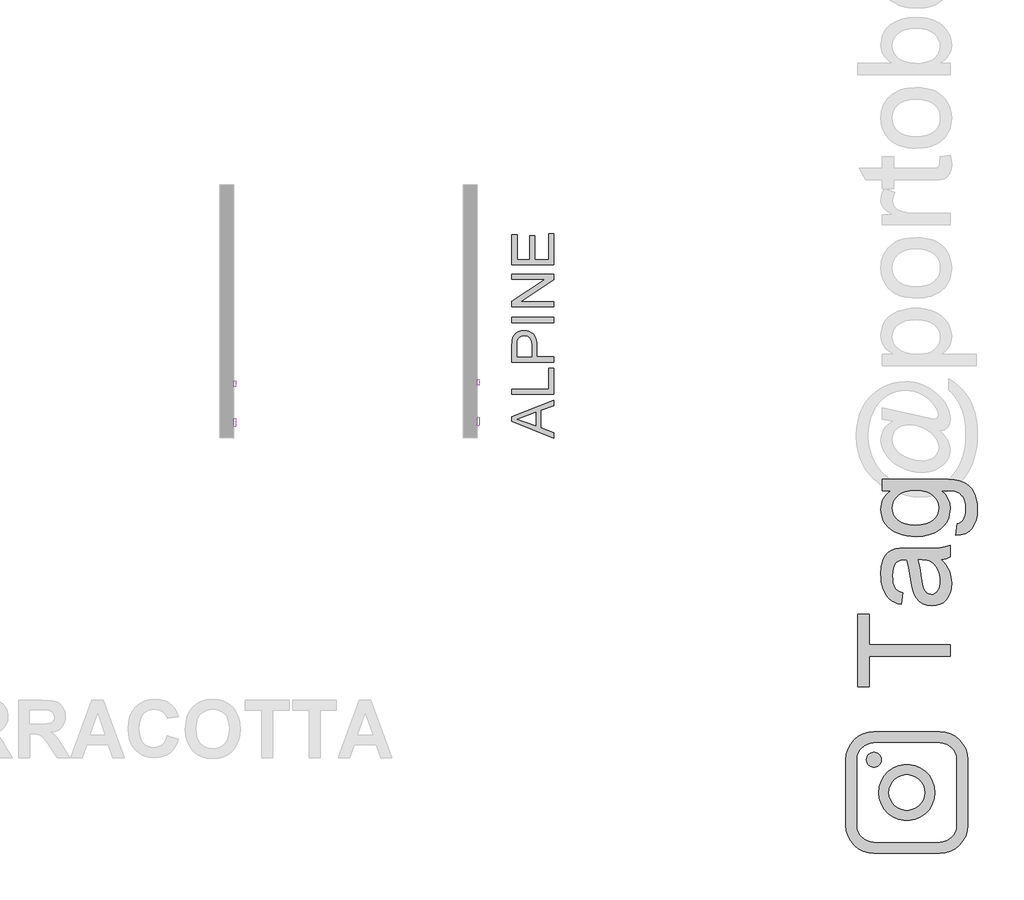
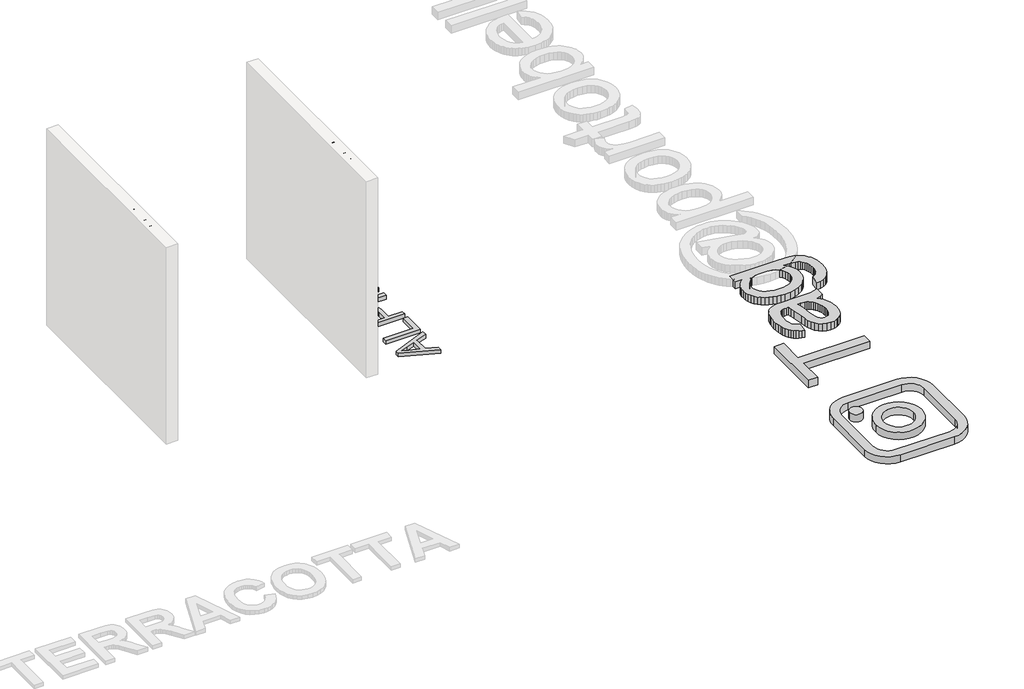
# One storey, part 4 of 11: 7 proxies.
"""IFC4 building model written with IfcOpenShell, lengths in millimetres."""

from ifc_helpers import new_model, si_unit, frame, origin, origin_with_axes, place, context, project, spatial, polyline, outline, extrude, transform, mapped, element, save
from components import generic_models_d67f6705

model = new_model("IFC4")

# Units and contexts
model_context = context("Model", 3, world=origin())
ifc_project = project(units=[si_unit("LENGTHUNIT", "METRE", prefix="MILLI")], contexts=[model_context])

# Site, building, storey
site = spatial("IfcSite", under=ifc_project)
building = spatial("IfcBuilding", under=site)
storey = spatial("IfcBuildingStorey", under=building, Name="PORTOBELLO - SHOWROOM", Elevation=0.0)

# Proxies
placement = place(None, origin())
generic_models_shape = generic_models_d67f6705(model_context)
element("IfcBuildingElementProxy", 1, Name="Blks_Instagram1 : Único 2", ObjectType="Blks_Instagram1 : Único 2", at=placement, inside=storey, context=model_context, shape_type="MappedRepresentation", body=[
    mapped(generic_models_shape, transform((-18873.9530157, -13261.2406298, 0.0), x_axis=(-1.0, 0.0, 0.0), y_axis=(0.0, -1.0, 0.0), z_axis=(0.0, 0.0, 1.0))),
])
element("IfcBuildingElementProxy", 2, Name="10mm Arial", ObjectType="10mm Arial", at=placement, inside=storey, context=model_context, shape_type="SweptSolid", body=[
    extrude(outline(polyline([(-9344.0198236, 2556.0678976), (-9303.9206861, 2656.5242077), (-9293.2275828, 2656.5242077), (-9253.1284453, 2556.0678976), (-9266.3967226, 2556.0678976), (-9277.8991663, 2587.4604945), (-9319.273628, 2587.4604945), (-9330.7515463, 2556.0678976), (-9344.0198236, 2556.0678976)]), holes=[polyline([(-9314.6628404, 2600.0175332), (-9282.4854285, 2600.0175332), (-9291.5353256, 2624.7146779), (-9298.5741345, 2643.9671689), (-9304.8281284, 2626.8729189), (-9314.6628404, 2600.0175332)])]), frame((-23458.2301018, 0.0, 0.0), z_axis=(1.0, 0.0, 0.0), x_axis=(0.0, 1.0, 0.0)), (0.0, 0.0, 1.0), 20.0),
    extrude(outline(polyline([(-23438.2301018, -9228.7256063), (-23438.2301018, -9241.2826451), (-23458.2301018, -9241.2826451), (-23458.2301018, -9228.7256063), (-23438.2301018, -9228.7256063)])), frame((0.0, 0.0, 2556.0678976), z_axis=(0.0, 0.0, 1.0), x_axis=(1.0, 0.0, 0.0)), (0.0, 0.0, 1.0), 100.4563101),
    extrude(outline(polyline([(-9209.8900481, 2527.8145603), (-9209.8900481, 2629.8405003), (-9197.3330094, 2629.8405003), (-9197.3330094, 2617.5287162), (-9188.6509943, 2627.9397767), (-9176.9278214, 2631.4101302), (-9161.0107937, 2626.5540878), (-9150.611996, 2612.8688776), (-9147.1048543, 2593.5182847), (-9151.0657171, 2573.1744103), (-9162.5681608, 2559.3175218), (-9178.4484003, 2554.4982677), (-9189.3744956, 2557.7233665), (-9197.3330094, 2565.8780841), (-9197.3330094, 2527.8145603), (-9209.8900481, 2527.8145603)]), holes=[polyline([(-9197.3330094, 2592.3655877), (-9195.9749117, 2581.1083987), (-9191.9006186, 2573.235724), (-9185.8888136, 2568.6004109), (-9178.7181804, 2567.0553065), (-9171.4310512, 2568.6555932), (-9165.2659621, 2573.4564532), (-9161.0629103, 2581.6173021), (-9159.6618931, 2593.2975555), (-9161.0291878, 2604.4934309), (-9165.1310721, 2612.4764702), (-9171.13368, 2617.2589361), (-9178.2031456, 2618.8530914), (-9185.3002025, 2617.1577685), (-9191.5327366, 2612.0718), (-9195.8829412, 2603.7546012), (-9197.3330094, 2592.3655877)])]), frame((-23458.2301018, 0.0, 0.0), z_axis=(1.0, 0.0, 0.0), x_axis=(0.0, 1.0, 0.0)), (0.0, 0.0, 1.0), 20.0),
    extrude(outline(polyline([(-23438.2301018, -9120.4211469), (-23438.2301018, -9132.9781857), (-23458.2301018, -9132.9781857), (-23458.2301018, -9120.4211469), (-23438.2301018, -9120.4211469)])), frame((0.0, 0.0, 2643.9671689), z_axis=(0.0, 0.0, 1.0), x_axis=(1.0, 0.0, 0.0)), (0.0, 0.0, 1.0), 12.5570388),
    extrude(outline(polyline([(-23438.2301018, -9120.4211469), (-23438.2301018, -9132.9781857), (-23458.2301018, -9132.9781857), (-23458.2301018, -9120.4211469), (-23438.2301018, -9120.4211469)])), frame((0.0, 0.0, 2556.0678976), z_axis=(0.0, 0.0, 1.0), x_axis=(1.0, 0.0, 0.0)), (0.0, 0.0, 1.0), 73.7726028),
    extrude(outline(polyline([(-9101.5855888, 2556.0678976), (-9101.5855888, 2629.8405003), (-9089.02855, 2629.8405003), (-9089.02855, 2619.5398045), (-9079.4268299, 2628.4425487), (-9066.3179682, 2631.4101302), (-9054.4599052, 2629.0188972), (-9046.3665013, 2622.7403778), (-9042.6018422, 2613.5065397), (-9041.9396546, 2601.3664339), (-9041.9396546, 2556.0678976), (-9054.4966934, 2556.0678976), (-9054.4966934, 2599.6741767), (-9055.9436959, 2610.784213), (-9061.0572556, 2616.6580622), (-9069.6779571, 2618.8530914), (-9083.3018536, 2613.9234727), (-9087.5968759, 2606.7804306), (-9089.02855, 2595.2105418), (-9089.02855, 2556.0678976), (-9101.5855888, 2556.0678976)])), frame((-23458.2301018, 0.0, 0.0), z_axis=(1.0, 0.0, 0.0), x_axis=(0.0, 1.0, 0.0)), (0.0, 0.0, 1.0), 20.0),
    extrude(outline(polyline([(-8973.0230942, 2578.0427154), (-8960.7113101, 2576.4730856), (-8965.1473538, 2567.1963279), (-8972.2260165, 2560.2617523), (-8981.7878827, 2555.9391389), (-8993.6735369, 2554.4982677), (-9008.4072108, 2556.9845369), (-9019.7441076, 2564.4433443), (-9026.9729888, 2576.3903121), (-9029.3826158, 2592.3410623), (-9026.9484633, 2608.828307), (-9019.6460057, 2621.1584852), (-9008.4623931, 2628.8472189), (-8994.3847754, 2631.4101302), (-8980.7455504, 2628.8533503), (-8969.8470463, 2621.1830107), (-8962.7009385, 2608.877358), (-8960.3189026, 2592.4146387), (-8960.392479, 2589.0301243), (-9016.8255771, 2589.0301243), (-9014.6520076, 2579.6307393), (-9009.6028272, 2572.7206892), (-9002.3156981, 2568.4716522), (-8993.4282822, 2567.0553065), (-8981.1164981, 2569.6795314), (-8973.0230942, 2578.0427154)]), holes=[polyline([(-9016.8255771, 2601.5871631), (-8972.8759414, 2601.5871631), (-8977.903662, 2612.9669795), (-8985.2245137, 2617.3815634), (-8994.4338263, 2618.8530914), (-9009.8971328, 2614.1564646), (-9014.7623722, 2608.6658258), (-9016.8255771, 2601.5871631)])]), frame((-23458.2301018, 0.0, 0.0), z_axis=(1.0, 0.0, 0.0), x_axis=(0.0, 1.0, 0.0)), (0.0, 0.0, 1.0), 20.0),
])
element("IfcBuildingElementProxy", 3, Name="10mm Arial", ObjectType="10mm Arial", at=placement, inside=storey, context=model_context, shape_type="SweptSolid", body=[
    extrude(outline(polyline([(-9356.1117613, 2554.1816581), (-9316.0126238, 2654.6379682), (-9305.3195205, 2654.6379682), (-9265.220383, 2554.1816581), (-9278.4886603, 2554.1816581), (-9289.991104, 2585.574255), (-9331.3655657, 2585.574255), (-9342.843484, 2554.1816581), (-9356.1117613, 2554.1816581)]), holes=[polyline([(-9326.7547781, 2598.1312938), (-9294.5773662, 2598.1312938), (-9303.6272633, 2622.8284384), (-9310.6660721, 2642.0809294), (-9316.9200661, 2624.9866794), (-9326.7547781, 2598.1312938)])]), frame((-26058.2301018, 0.0, 0.0), z_axis=(1.0, 0.0, 0.0), x_axis=(0.0, 1.0, 0.0)), (0.0, 0.0, 1.0), 20.0),
    extrude(outline(polyline([(-26038.2301018, -9240.817544), (-26038.2301018, -9253.3745828), (-26058.2301018, -9253.3745828), (-26058.2301018, -9240.817544), (-26038.2301018, -9240.817544)])), frame((0.0, 0.0, 2554.1816581), z_axis=(0.0, 0.0, 1.0), x_axis=(1.0, 0.0, 0.0)), (0.0, 0.0, 1.0), 100.4563101),
    extrude(outline(polyline([(-9221.9819858, 2525.9283208), (-9221.9819858, 2627.9542608), (-9209.4249471, 2627.9542608), (-9209.4249471, 2615.6424767), (-9200.742932, 2626.0535372), (-9189.0197591, 2629.5238907), (-9173.1027314, 2624.6678483), (-9162.7039337, 2610.9826381), (-9159.196792, 2591.6320452), (-9163.1576548, 2571.2881708), (-9174.6600985, 2557.4312824), (-9190.540338, 2552.6120282), (-9201.4664332, 2555.837127), (-9209.4249471, 2563.9918446), (-9209.4249471, 2525.9283208), (-9221.9819858, 2525.9283208)]), holes=[polyline([(-9209.4249471, 2590.4793483), (-9208.0668494, 2579.2221592), (-9203.9925563, 2571.3494845), (-9197.9807513, 2566.7141714), (-9190.8101181, 2565.169067), (-9183.5229889, 2566.7693537), (-9177.3578998, 2571.5702137), (-9173.154848, 2579.7310626), (-9171.7538308, 2591.411316), (-9173.1211255, 2602.6071914), (-9177.2230098, 2610.5902307), (-9183.2256176, 2615.3726966), (-9190.2950833, 2616.9668519), (-9197.3921401, 2615.2715291), (-9203.6246743, 2610.1855605), (-9207.9748789, 2601.8683617), (-9209.4249471, 2590.4793483)])]), frame((-26058.2301018, 0.0, 0.0), z_axis=(1.0, 0.0, 0.0), x_axis=(0.0, 1.0, 0.0)), (0.0, 0.0, 1.0), 20.0),
    extrude(outline(polyline([(-26038.2301018, -9132.5130846), (-26038.2301018, -9145.0701234), (-26058.2301018, -9145.0701234), (-26058.2301018, -9132.5130846), (-26038.2301018, -9132.5130846)])), frame((0.0, 0.0, 2642.0809294), z_axis=(0.0, 0.0, 1.0), x_axis=(1.0, 0.0, 0.0)), (0.0, 0.0, 1.0), 12.5570388),
    extrude(outline(polyline([(-26038.2301018, -9132.5130846), (-26038.2301018, -9145.0701234), (-26058.2301018, -9145.0701234), (-26058.2301018, -9132.5130846), (-26038.2301018, -9132.5130846)])), frame((0.0, 0.0, 2554.1816581), z_axis=(0.0, 0.0, 1.0), x_axis=(1.0, 0.0, 0.0)), (0.0, 0.0, 1.0), 73.7726028),
    extrude(outline(polyline([(-9113.6775265, 2554.1816581), (-9113.6775265, 2627.9542608), (-9101.1204877, 2627.9542608), (-9101.1204877, 2617.653565), (-9091.5187676, 2626.5563093), (-9078.4099059, 2629.5238907), (-9066.5518429, 2627.1326577), (-9058.458439, 2620.8541383), (-9054.6937799, 2611.6203002), (-9054.0315923, 2599.4801944), (-9054.0315923, 2554.1816581), (-9066.5886311, 2554.1816581), (-9066.5886311, 2597.7879372), (-9068.0356336, 2608.8979735), (-9073.1491933, 2614.7718227), (-9081.7698947, 2616.9668519), (-9095.3937913, 2612.0372332), (-9099.6888136, 2604.8941911), (-9101.1204877, 2593.3243024), (-9101.1204877, 2554.1816581), (-9113.6775265, 2554.1816581)])), frame((-26058.2301018, 0.0, 0.0), z_axis=(1.0, 0.0, 0.0), x_axis=(0.0, 1.0, 0.0)), (0.0, 0.0, 1.0), 20.0),
    extrude(outline(polyline([(-8985.1150319, 2576.1564759), (-8972.8032478, 2574.5868461), (-8977.2392915, 2565.3100884), (-8984.3179542, 2558.3755128), (-8993.8798204, 2554.0528994), (-9005.7654745, 2552.6120282), (-9020.4991484, 2555.0982974), (-9031.8360453, 2562.5571048), (-9039.0649265, 2574.5040726), (-9041.4745535, 2590.4548228), (-9039.040401, 2606.9420675), (-9031.7379434, 2619.2722457), (-9020.5543307, 2626.9609794), (-9006.4767131, 2629.5238907), (-8992.8374881, 2626.9671108), (-8981.938984, 2619.2967712), (-8974.7928762, 2606.9911185), (-8972.4108403, 2590.5283992), (-8972.4844167, 2587.1438848), (-9028.9175148, 2587.1438848), (-9026.7439453, 2577.7444999), (-9021.6947649, 2570.8344497), (-9014.4076357, 2566.5854127), (-9005.5202199, 2565.169067), (-8993.2084358, 2567.7932919), (-8985.1150319, 2576.1564759)]), holes=[polyline([(-9028.9175148, 2599.7009236), (-8984.9678791, 2599.7009236), (-8989.9955997, 2611.08074), (-8997.3164514, 2615.4953239), (-9006.525764, 2616.9668519), (-9021.9890705, 2612.2702251), (-9026.8543099, 2606.7795863), (-9028.9175148, 2599.7009236)])]), frame((-26058.2301018, 0.0, 0.0), z_axis=(1.0, 0.0, 0.0), x_axis=(0.0, 1.0, 0.0)), (0.0, 0.0, 1.0), 20.0),
])
element("IfcBuildingElementProxy", 4, Name="10mm Arial Narrow", ObjectType="10mm Arial Narrow", at=placement, inside=storey, context=model_context, shape_type="SweptSolid", body=[
    extrude(outline(polyline([(-8915.186117, 2556.0678976), (-8915.186117, 2656.7865013), (-8883.8892323, 2656.7865013), (-8867.5935308, 2654.9081806), (-8856.1205447, 2645.4277374), (-8851.8308663, 2628.4086286), (-8853.6171747, 2616.332803), (-8858.9760999, 2606.7064093), (-8868.7198887, 2600.4051509), (-8883.6607879, 2598.3047314), (-8905.4391554, 2598.3047314), (-8905.4391554, 2556.0678976), (-8915.186117, 2556.0678976)]), holes=[polyline([(-8905.4391554, 2609.6761867), (-8882.4678004, 2609.6761867), (-8866.603605, 2614.2070009), (-8861.5778279, 2627.8755916), (-8864.0526424, 2638.041368), (-8870.0302712, 2643.8413179), (-8882.6962448, 2645.415046), (-8905.4391554, 2645.415046), (-8905.4391554, 2609.6761867)])]), frame((-23458.2301018, 0.0, 0.0), z_axis=(1.0, 0.0, 0.0), x_axis=(0.0, 1.0, 0.0)), (0.0, 0.0, 1.0), 20.0),
    extrude(outline(polyline([(-8843.7083982, 2592.6190038), (-8841.7539294, 2609.2097793), (-8835.8905227, 2621.1618641), (-8827.031956, 2628.3864187), (-8816.0920069, 2630.7946036), (-8805.2789713, 2628.3864187), (-8796.3950219, 2621.1618641), (-8790.4554671, 2609.4001497), (-8788.4756155, 2593.3804851), (-8790.4205659, 2576.2185986), (-8796.255417, 2564.0761434), (-8805.1044651, 2556.8515888), (-8816.0920069, 2554.4434039), (-8826.952635, 2556.8579345), (-8835.827066, 2564.1015261), (-8841.7380652, 2576.0599566), (-8843.7083982, 2592.6190038)]), holes=[polyline([(-8833.9614366, 2592.6443865), (-8832.6573997, 2580.0926351), (-8828.7452891, 2571.221377), (-8822.9040924, 2565.9481185), (-8815.812797, 2564.1903656), (-8809.0927239, 2565.9639826), (-8803.4006506, 2571.2848338), (-8799.5170955, 2580.171956), (-8798.2225772, 2592.6443865), (-8799.526614, 2605.1580638), (-8803.4387246, 2614.0166305), (-8809.2799214, 2619.2898891), (-8816.3712167, 2621.0476419), (-8823.1388825, 2619.2803705), (-8828.8214373, 2613.9785564), (-8832.6764367, 2605.1104712), (-8833.9614366, 2592.6443865)])]), frame((-23458.2301018, 0.0, 0.0), z_axis=(1.0, 0.0, 0.0), x_axis=(0.0, 1.0, 0.0)), (0.0, 0.0, 1.0), 20.0),
    extrude(outline(polyline([(-8716.9978967, 2564.1903656), (-8715.3734031, 2554.4434039), (-8722.7343898, 2554.4434039), (-8731.0091541, 2556.5628605), (-8735.3242153, 2562.3628103), (-8736.49182, 2577.0086355), (-8736.49182, 2619.4231483), (-8744.6142881, 2619.4231483), (-8744.6142881, 2622.6721355), (-8746.2387817, 2617.7986547), (-8753.8028301, 2619.4231483), (-8759.8819897, 2617.1006301), (-8763.7528534, 2610.615347), (-8765.732705, 2595.2080404), (-8765.732705, 2556.0678976), (-8775.4796667, 2556.0678976), (-8775.4796667, 2629.17011), (-8765.732705, 2629.17011), (-8765.732705, 2619.4739137), (-8759.4885577, 2628.5609249), (-8753.0921141, 2630.7946036), (-8744.6142881, 2629.17011), (-8736.49182, 2629.17011), (-8736.49182, 2645.415046), (-8726.7448584, 2653.5375141), (-8726.7448584, 2629.17011), (-8716.9978967, 2629.17011), (-8716.9978967, 2619.4231483), (-8726.7448584, 2619.4231483), (-8726.7448584, 2574.7749568), (-8725.8818462, 2566.7794023), (-8721.2621925, 2564.1903656), (-8716.9978967, 2564.1903656)])), frame((-23458.2301018, 0.0, 0.0), z_axis=(1.0, 0.0, 0.0), x_axis=(0.0, 1.0, 0.0)), (0.0, 0.0, 1.0), 20.0),
    extrude(outline(polyline([(-8710.4999223, 2592.6190038), (-8708.5454534, 2609.2097793), (-8702.6820468, 2621.1618641), (-8693.8234801, 2628.3864187), (-8682.8835309, 2630.7946036), (-8672.0704954, 2628.3864187), (-8663.1865459, 2621.1618641), (-8657.2469912, 2609.4001497), (-8655.2671396, 2593.3804851), (-8657.21209, 2576.2185986), (-8663.046941, 2564.0761434), (-8671.8959892, 2556.8515888), (-8682.8835309, 2554.4434039), (-8693.7441591, 2556.8579345), (-8702.61859, 2564.1015261), (-8708.5295892, 2576.0599566), (-8710.4999223, 2592.6190038)]), holes=[polyline([(-8700.7529606, 2592.6443865), (-8699.4489238, 2580.0926351), (-8695.5368132, 2571.221377), (-8689.6956165, 2565.9481185), (-8682.6043211, 2564.1903656), (-8675.8842479, 2565.9639826), (-8670.1921746, 2571.2848338), (-8666.3086196, 2580.171956), (-8665.0141012, 2592.6443865), (-8666.3181381, 2605.1580638), (-8670.2302487, 2614.0166305), (-8676.0714454, 2619.2898891), (-8683.1627408, 2621.0476419), (-8689.9304065, 2619.2803705), (-8695.6129613, 2613.9785564), (-8699.4679608, 2605.1104712), (-8700.7529606, 2592.6443865)])]), frame((-23458.2301018, 0.0, 0.0), z_axis=(1.0, 0.0, 0.0), x_axis=(0.0, 1.0, 0.0)), (0.0, 0.0, 1.0), 20.0),
    extrude(outline(polyline([(-8632.5242291, 2556.0678976), (-8642.2711907, 2556.0678976), (-8642.2711907, 2656.7865013), (-8632.5242291, 2656.7865013), (-8632.5242291, 2621.3776172), (-8625.1251683, 2628.459394), (-8615.923935, 2630.7946036), (-8603.0422083, 2626.5937646), (-8593.7648269, 2613.8643342), (-8590.2873952, 2593.1774234), (-8592.2196542, 2576.72308), (-8598.0164312, 2564.5203409), (-8606.3895536, 2556.9626382), (-8616.0508486, 2554.4434039), (-8625.3916868, 2557.0578234), (-8632.5242291, 2564.8249334), (-8632.5242291, 2556.0678976)]), holes=[polyline([(-8632.5242291, 2593.1774234), (-8630.4428466, 2575.9298702), (-8624.5540573, 2567.1982171), (-8616.101614, 2564.1903656), (-8610.1588864, 2565.9798468), (-8604.9205291, 2571.3482906), (-8600.0343569, 2592.7713), (-8604.7428501, 2614.2070009), (-8609.9875531, 2619.3374817), (-8616.3046757, 2621.0476419), (-8622.2823045, 2619.2581607), (-8627.5746001, 2613.889717), (-8632.5242291, 2593.1774234)])]), frame((-23458.2301018, 0.0, 0.0), z_axis=(1.0, 0.0, 0.0), x_axis=(0.0, 1.0, 0.0)), (0.0, 0.0, 1.0), 20.0),
    extrude(outline(polyline([(-8538.3035998, 2578.8108081), (-8528.5566381, 2577.1863145), (-8532.2561685, 2567.2997479), (-8538.0751553, 2560.179897), (-8545.7788086, 2555.8775272), (-8555.1323382, 2554.4434039), (-8566.7258922, 2556.8579345), (-8575.8700145, 2564.1015261), (-8581.8095692, 2575.9076603), (-8583.7894208, 2592.0098187), (-8581.8000507, 2608.6767423), (-8575.8319404, 2620.8572716), (-8566.8179046, 2628.3102706), (-8555.6907579, 2630.7946036), (-8545.0078087, 2628.3959372), (-8536.2602914, 2621.1999382), (-8530.4254403, 2609.4604336), (-8528.48049, 2593.4312506), (-8528.5566381, 2590.1822633), (-8574.0424591, 2590.1822633), (-8568.0394476, 2570.7391055), (-8562.1094114, 2565.8275506), (-8555.0054247, 2564.1903656), (-8544.8269569, 2567.8454762), (-8538.3035998, 2578.8108081)]), holes=[polyline([(-8573.3825086, 2599.929225), (-8538.3035998, 2599.929225), (-8542.5678955, 2614.1943095), (-8548.393228, 2619.3343088), (-8555.6146098, 2621.0476419), (-8567.8236946, 2615.3365316), (-8573.3825086, 2599.929225)])]), frame((-23458.2301018, 0.0, 0.0), z_axis=(1.0, 0.0, 0.0), x_axis=(0.0, 1.0, 0.0)), (0.0, 0.0, 1.0), 20.0),
    extrude(outline(polyline([(-23438.2301018, -8505.8137276), (-23438.2301018, -8515.5606892), (-23458.2301018, -8515.5606892), (-23458.2301018, -8505.8137276), (-23438.2301018, -8505.8137276)])), frame((0.0, 0.0, 2556.0678976), z_axis=(0.0, 0.0, 1.0), x_axis=(1.0, 0.0, 0.0)), (0.0, 0.0, 1.0), 100.7186038),
    extrude(outline(polyline([(-23438.2301018, -8479.8218298), (-23438.2301018, -8489.5687915), (-23458.2301018, -8489.5687915), (-23458.2301018, -8479.8218298), (-23438.2301018, -8479.8218298)])), frame((0.0, 0.0, 2556.0678976), z_axis=(0.0, 0.0, 1.0), x_axis=(1.0, 0.0, 0.0)), (0.0, 0.0, 1.0), 100.7186038),
    extrude(outline(polyline([(-8468.4503746, 2592.6190038), (-8466.4959057, 2609.2097793), (-8460.6324991, 2621.1618641), (-8451.7739324, 2628.3864187), (-8440.8339832, 2630.7946036), (-8430.0209476, 2628.3864187), (-8421.1369982, 2621.1618641), (-8415.1974435, 2609.4001497), (-8413.2175919, 2593.3804851), (-8415.1625422, 2576.2185986), (-8420.9973933, 2564.0761434), (-8429.8464415, 2556.8515888), (-8440.8339832, 2554.4434039), (-8451.6946114, 2556.8579345), (-8460.5690423, 2564.1015261), (-8466.4800415, 2576.0599566), (-8468.4503746, 2592.6190038)]), holes=[polyline([(-8458.7034129, 2592.6443865), (-8457.3993761, 2580.0926351), (-8453.4872655, 2571.221377), (-8447.6460687, 2565.9481185), (-8440.5547734, 2564.1903656), (-8433.8347002, 2565.9639826), (-8428.1426269, 2571.2848338), (-8424.2590719, 2580.171956), (-8422.9645535, 2592.6443865), (-8424.2685904, 2605.1580638), (-8428.180701, 2614.0166305), (-8434.0218977, 2619.2898891), (-8441.1131931, 2621.0476419), (-8447.8808588, 2619.2803705), (-8453.5634136, 2613.9785564), (-8457.4184131, 2605.1104712), (-8458.7034129, 2592.6443865)])]), frame((-23458.2301018, 0.0, 0.0), z_axis=(1.0, 0.0, 0.0), x_axis=(0.0, 1.0, 0.0)), (0.0, 0.0, 1.0), 20.0),
])
element("IfcBuildingElementProxy", 5, Name="10mm Arial Narrow", ObjectType="10mm Arial Narrow", at=placement, inside=storey, context=model_context, shape_type="SweptSolid", body=[
    extrude(outline(polyline([(-8927.2780547, 2554.1816581), (-8927.2780547, 2654.9002618), (-8895.98117, 2654.9002618), (-8879.6854685, 2653.0219411), (-8868.2124824, 2643.5414979), (-8863.922804, 2626.5223891), (-8865.7091124, 2614.4465636), (-8871.0680376, 2604.8201698), (-8880.8118264, 2598.5189114), (-8895.7527256, 2596.4184919), (-8917.5310931, 2596.4184919), (-8917.5310931, 2554.1816581), (-8927.2780547, 2554.1816581)]), holes=[polyline([(-8917.5310931, 2607.7899472), (-8894.5597381, 2607.7899472), (-8878.6955427, 2612.3207614), (-8873.6697656, 2625.9893521), (-8876.1445801, 2636.1551285), (-8882.1222089, 2641.9550784), (-8894.7881825, 2643.5288066), (-8917.5310931, 2643.5288066), (-8917.5310931, 2607.7899472)])]), frame((-26058.2301018, 0.0, 0.0), z_axis=(1.0, 0.0, 0.0), x_axis=(0.0, 1.0, 0.0)), (0.0, 0.0, 1.0), 20.0),
    extrude(outline(polyline([(-8855.8003359, 2590.7327643), (-8853.845867, 2607.3235398), (-8847.9824604, 2619.2756246), (-8839.1238937, 2626.5001792), (-8828.1839446, 2628.9083641), (-8817.370909, 2626.5001792), (-8808.4869596, 2619.2756246), (-8802.5474048, 2607.5139102), (-8800.5675532, 2591.4942456), (-8802.5125036, 2574.3323591), (-8808.3473546, 2562.1899039), (-8817.1964028, 2554.9653493), (-8828.1839446, 2552.5571645), (-8839.0445727, 2554.971695), (-8847.9190036, 2562.2152866), (-8853.8300029, 2574.1737171), (-8855.8003359, 2590.7327643)]), holes=[polyline([(-8846.0533743, 2590.758147), (-8844.7493374, 2578.2063956), (-8840.8372268, 2569.3351375), (-8834.9960301, 2564.061879), (-8827.9047347, 2562.3041261), (-8821.1846616, 2564.0777432), (-8815.4925882, 2569.3985943), (-8811.6090332, 2578.2857166), (-8810.3145149, 2590.758147), (-8811.6185517, 2603.2718243), (-8815.5306623, 2612.130391), (-8821.3718591, 2617.4036496), (-8828.4631544, 2619.1614024), (-8835.2308202, 2617.3941311), (-8840.913375, 2612.092317), (-8844.7683744, 2603.2242317), (-8846.0533743, 2590.758147)])]), frame((-26058.2301018, 0.0, 0.0), z_axis=(1.0, 0.0, 0.0), x_axis=(0.0, 1.0, 0.0)), (0.0, 0.0, 1.0), 20.0),
    extrude(outline(polyline([(-8729.0898344, 2562.3041261), (-8727.4653408, 2552.5571645), (-8734.8263275, 2552.5571645), (-8743.1010918, 2554.676621), (-8747.416153, 2560.4765708), (-8748.5837577, 2575.122396), (-8748.5837577, 2617.5369088), (-8756.7062258, 2617.5369088), (-8756.7062258, 2620.785896), (-8758.3307194, 2615.9124152), (-8765.8947678, 2617.5369088), (-8771.9739274, 2615.2143906), (-8775.8447911, 2608.7291075), (-8777.8246427, 2593.321801), (-8777.8246427, 2554.1816581), (-8787.5716043, 2554.1816581), (-8787.5716043, 2627.2838705), (-8777.8246427, 2627.2838705), (-8777.8246427, 2617.5876742), (-8771.5804954, 2626.6746854), (-8765.1840518, 2628.9083641), (-8756.7062258, 2627.2838705), (-8748.5837577, 2627.2838705), (-8748.5837577, 2643.5288066), (-8738.8367961, 2651.6512746), (-8738.8367961, 2627.2838705), (-8729.0898344, 2627.2838705), (-8729.0898344, 2617.5369088), (-8738.8367961, 2617.5369088), (-8738.8367961, 2572.8887173), (-8737.9737838, 2564.8931628), (-8733.3541301, 2562.3041261), (-8729.0898344, 2562.3041261)])), frame((-26058.2301018, 0.0, 0.0), z_axis=(1.0, 0.0, 0.0), x_axis=(0.0, 1.0, 0.0)), (0.0, 0.0, 1.0), 20.0),
    extrude(outline(polyline([(-8722.59186, 2590.7327643), (-8720.6373911, 2607.3235398), (-8714.7739845, 2619.2756246), (-8705.9154178, 2626.5001792), (-8694.9754686, 2628.9083641), (-8684.1624331, 2626.5001792), (-8675.2784836, 2619.2756246), (-8669.3389289, 2607.5139102), (-8667.3590773, 2591.4942456), (-8669.3040276, 2574.3323591), (-8675.1388787, 2562.1899039), (-8683.9879269, 2554.9653493), (-8694.9754686, 2552.5571645), (-8705.8360968, 2554.971695), (-8714.7105277, 2562.2152866), (-8720.6215269, 2574.1737171), (-8722.59186, 2590.7327643)]), holes=[polyline([(-8712.8448983, 2590.758147), (-8711.5408615, 2578.2063956), (-8707.6287509, 2569.3351375), (-8701.7875541, 2564.061879), (-8694.6962588, 2562.3041261), (-8687.9761856, 2564.0777432), (-8682.2841123, 2569.3985943), (-8678.4005573, 2578.2857166), (-8677.1060389, 2590.758147), (-8678.4100758, 2603.2718243), (-8682.3221864, 2612.130391), (-8688.1633831, 2617.4036496), (-8695.2546785, 2619.1614024), (-8702.0223442, 2617.3941311), (-8707.704899, 2612.092317), (-8711.5598985, 2603.2242317), (-8712.8448983, 2590.758147)])]), frame((-26058.2301018, 0.0, 0.0), z_axis=(1.0, 0.0, 0.0), x_axis=(0.0, 1.0, 0.0)), (0.0, 0.0, 1.0), 20.0),
    extrude(outline(polyline([(-8644.6161668, 2554.1816581), (-8654.3631284, 2554.1816581), (-8654.3631284, 2654.9002618), (-8644.6161668, 2654.9002618), (-8644.6161668, 2619.4913777), (-8637.217106, 2626.5731545), (-8628.0158727, 2628.9083641), (-8615.134146, 2624.7075251), (-8605.8567646, 2611.9780947), (-8602.3793329, 2591.2911839), (-8604.3115919, 2574.8368405), (-8610.1083689, 2562.6341014), (-8618.4814913, 2555.0763987), (-8628.1427863, 2552.5571645), (-8637.4836245, 2555.1715839), (-8644.6161668, 2562.9386939), (-8644.6161668, 2554.1816581)]), holes=[polyline([(-8644.6161668, 2591.2911839), (-8642.5347843, 2574.0436307), (-8636.645995, 2565.3119776), (-8628.1935517, 2562.3041261), (-8622.2508241, 2564.0936074), (-8617.0124668, 2569.4620511), (-8612.1262946, 2590.8850605), (-8616.8347878, 2612.3207614), (-8622.0794908, 2617.4512422), (-8628.3966134, 2619.1614024), (-8634.3742422, 2617.3719212), (-8639.6665378, 2612.0034775), (-8644.6161668, 2591.2911839)])]), frame((-26058.2301018, 0.0, 0.0), z_axis=(1.0, 0.0, 0.0), x_axis=(0.0, 1.0, 0.0)), (0.0, 0.0, 1.0), 20.0),
    extrude(outline(polyline([(-8550.3955374, 2576.9245686), (-8540.6485758, 2575.300075), (-8544.3481062, 2565.4135084), (-8550.167093, 2558.2936575), (-8557.8707463, 2553.9912877), (-8567.2242759, 2552.5571645), (-8578.8178299, 2554.971695), (-8587.9619522, 2562.2152866), (-8593.9015069, 2574.0214208), (-8595.8813585, 2590.1235792), (-8593.8919884, 2606.7905029), (-8587.9238781, 2618.9710321), (-8578.9098423, 2626.4240311), (-8567.7826956, 2628.9083641), (-8557.0997464, 2626.5096977), (-8548.3522291, 2619.3136987), (-8542.517378, 2607.5741941), (-8540.5724277, 2591.5450111), (-8540.6485758, 2588.2960239), (-8586.1343968, 2588.2960239), (-8580.1313853, 2568.852866), (-8574.2013491, 2563.9413111), (-8567.0973624, 2562.3041261), (-8556.9188946, 2565.9592367), (-8550.3955374, 2576.9245686)]), holes=[polyline([(-8585.4744463, 2598.0429855), (-8550.3955374, 2598.0429855), (-8554.6598332, 2612.30807), (-8560.4851657, 2617.4480693), (-8567.7065475, 2619.1614024), (-8579.9156322, 2613.4502921), (-8585.4744463, 2598.0429855)])]), frame((-26058.2301018, 0.0, 0.0), z_axis=(1.0, 0.0, 0.0), x_axis=(0.0, 1.0, 0.0)), (0.0, 0.0, 1.0), 20.0),
    extrude(outline(polyline([(-26038.2301018, -8517.9056653), (-26038.2301018, -8527.6526269), (-26058.2301018, -8527.6526269), (-26058.2301018, -8517.9056653), (-26038.2301018, -8517.9056653)])), frame((0.0, 0.0, 2554.1816581), z_axis=(0.0, 0.0, 1.0), x_axis=(1.0, 0.0, 0.0)), (0.0, 0.0, 1.0), 100.7186038),
    extrude(outline(polyline([(-26038.2301018, -8491.9137675), (-26038.2301018, -8501.6607292), (-26058.2301018, -8501.6607292), (-26058.2301018, -8491.9137675), (-26038.2301018, -8491.9137675)])), frame((0.0, 0.0, 2554.1816581), z_axis=(0.0, 0.0, 1.0), x_axis=(1.0, 0.0, 0.0)), (0.0, 0.0, 1.0), 100.7186038),
    extrude(outline(polyline([(-8480.5423123, 2590.7327643), (-8478.5878434, 2607.3235398), (-8472.7244368, 2619.2756246), (-8463.8658701, 2626.5001792), (-8452.9259209, 2628.9083641), (-8442.1128853, 2626.5001792), (-8433.2289359, 2619.2756246), (-8427.2893811, 2607.5139102), (-8425.3095296, 2591.4942456), (-8427.2544799, 2574.3323591), (-8433.089331, 2562.1899039), (-8441.9383792, 2554.9653493), (-8452.9259209, 2552.5571645), (-8463.7865491, 2554.971695), (-8472.66098, 2562.2152866), (-8478.5719792, 2574.1737171), (-8480.5423123, 2590.7327643)]), holes=[polyline([(-8470.7953506, 2590.758147), (-8469.4913137, 2578.2063956), (-8465.5792032, 2569.3351375), (-8459.7380064, 2564.061879), (-8452.6467111, 2562.3041261), (-8445.9266379, 2564.0777432), (-8440.2345646, 2569.3985943), (-8436.3510096, 2578.2857166), (-8435.0564912, 2590.758147), (-8436.3605281, 2603.2718243), (-8440.2726387, 2612.130391), (-8446.1138354, 2617.4036496), (-8453.2051307, 2619.1614024), (-8459.9727965, 2617.3941311), (-8465.6553513, 2612.092317), (-8469.5103508, 2603.2242317), (-8470.7953506, 2590.758147)])]), frame((-26058.2301018, 0.0, 0.0), z_axis=(1.0, 0.0, 0.0), x_axis=(0.0, 1.0, 0.0)), (0.0, 0.0, 1.0), 20.0),
])
element("IfcBuildingElementProxy", 6, Name="450mm Arial", ObjectType="450mm Arial", at=placement, inside=storey, context=model_context, shape_type="SweptSolid", body=[
    extrude(outline(polyline([(-22640.8262917, -9478.210293), (-23090.4824345, -9298.7210856), (-23090.4824345, -9250.857297), (-22640.8262917, -9071.3680896), (-22640.8262917, -9130.7587081), (-22781.3438363, -9182.2452147), (-22781.3438363, -9367.4429473), (-22640.8262917, -9418.8196746), (-22640.8262917, -9478.210293)]), holes=[polyline([(-22837.5508542, -9346.8044329), (-22837.5508542, -9202.7739497), (-22948.0986412, -9243.2825231), (-23034.2754167, -9274.7891913), (-22957.7592224, -9302.7829209), (-22837.5508542, -9346.8044329)])]), origin_with_axes(), (0.0, 0.0, 1.0), 50.0),
    extrude(outline(polyline([(-22640.8262917, -9011.3187951), (-23090.4824345, -9011.3187951), (-23090.4824345, -8955.1117773), (-22697.0333095, -8955.1117773), (-22697.0333095, -8730.2837059), (-22640.8262917, -8730.2837059), (-22640.8262917, -9011.3187951)])), origin_with_axes(), (0.0, 0.0, 1.0), 50.0),
    extrude(outline(polyline([(-22640.8262917, -8667.0508108), (-23090.4824345, -8667.0508108), (-23090.4824345, -8500.4057852), (-23086.2010406, -8433.2208342), (-23078.2008718, -8403.264799), (-23065.1782985, -8378.6056166), (-23046.543257, -8358.74928), (-23021.7056832, -8343.2017821), (-22992.408324, -8333.1569733), (-22960.3939264, -8329.8087037), (-22932.7912857, -8332.0694718), (-22907.397954, -8338.8517761), (-22884.2139314, -8350.1556167), (-22863.2392178, -8365.9809935), (-22845.8529161, -8387.7070094), (-22833.4341292, -8416.7127672), (-22825.9828571, -8452.9982669), (-22823.4990997, -8496.5635086), (-22823.4990997, -8610.8437929), (-22640.8262917, -8610.8437929), (-22640.8262917, -8667.0508108)]), holes=[polyline([(-22879.7061176, -8610.8437929), (-22879.7061176, -8493.2701286), (-22884.8657462, -8443.430312), (-22891.3152819, -8424.8501601), (-22900.3446319, -8410.4965125), (-22911.713654, -8399.7861665), (-22925.1822057, -8392.1359193), (-22940.7502872, -8387.545771), (-22958.4178984, -8386.0157215), (-22983.6671447, -8389.6247171), (-23004.9643351, -8400.4517037), (-23020.9921175, -8417.1518845), (-23030.43314, -8438.3804628), (-23034.2754167, -8494.5874806), (-23034.2754167, -8610.8437929), (-22879.7061176, -8610.8437929)])]), origin_with_axes(), (0.0, 0.0, 1.0), 50.0),
    extrude(outline(polyline([(-22640.8262917, -8245.4981769), (-23090.4824345, -8245.4981769), (-23090.4824345, -8189.291159), (-22640.8262917, -8189.291159), (-22640.8262917, -8245.4981769)])), origin_with_axes(), (0.0, 0.0, 1.0), 50.0),
    extrude(outline(polyline([(-22640.8262917, -8076.8771233), (-23090.4824345, -8076.8771233), (-23090.4824345, -8016.7180495), (-22734.248503, -7781.7902796), (-23090.4824345, -7781.7902796), (-23090.4824345, -7725.5832618), (-22640.8262917, -7725.5832618), (-22640.8262917, -7785.7423356), (-22997.1700025, -8020.6701055), (-22640.8262917, -8020.6701055), (-22640.8262917, -8076.8771233)])), origin_with_axes(), (0.0, 0.0, 1.0), 50.0),
    extrude(outline(polyline([(-22640.8262917, -7627.2209805), (-23090.4824345, -7627.2209805), (-23090.4824345, -7304.0306279), (-23034.2754167, -7304.0306279), (-23034.2754167, -7571.0139627), (-22900.7837493, -7571.0139627), (-22900.7837493, -7318.0823823), (-22844.5767314, -7318.0823823), (-22844.5767314, -7571.0139627), (-22697.0333095, -7571.0139627), (-22697.0333095, -7297.0047506), (-22640.8262917, -7297.0047506), (-22640.8262917, -7627.2209805)])), origin_with_axes(), (0.0, 0.0, 1.0), 50.0),
])
element("IfcBuildingElementProxy", 7, Name="80mm OpenSans Light", ObjectType="80mm OpenSans Light", at=placement, inside=storey, context=model_context, shape_type="SweptSolid", body=[
    extrude(outline(polyline([(-18411.6707519, -11806.5741017), (-19273.1445812, -11806.5741017), (-19273.1445812, -12129.6267876), (-19396.2122711, -12129.6267876), (-19396.2122711, -11360.4537258), (-19273.1445812, -11360.4537258), (-19273.1445812, -11683.5064118), (-18411.6707519, -11683.5064118), (-18411.6707519, -11806.5741017)])), origin_with_axes(), (0.0, 0.0, 1.0), 100.0),
    extrude(outline(polyline([(-18503.9715194, -10775.8821988), (-18476.5847519, -10805.0642041), (-18453.5546288, -10834.6818738), (-18434.88115, -10864.735208), (-18420.5643155, -10895.2242066), (-18409.9431171, -10926.4943966), (-18402.3565469, -10958.891305), (-18396.2872907, -11027.0652768), (-18399.9378582, -11081.861346), (-18410.8895605, -11129.912128), (-18429.1423978, -11171.2176228), (-18454.6963701, -11205.7778304), (-18485.9290028, -11233.0669489), (-18521.2178216, -11252.5591764), (-18560.5628265, -11264.2545129), (-18603.9640174, -11268.1529584), (-18654.9818244, -11262.2639771), (-18701.312483, -11244.5970333), (-18740.972969, -11217.3454721), (-18771.9802581, -11182.7026385), (-18795.4159998, -11141.9905487), (-18812.3618438, -11096.5312189), (-18821.7962322, -11052.2436762), (-18830.8700706, -10990.0488232), (-18850.3397638, -10864.2169176), (-18861.3365349, -10815.6328222), (-18873.174589, -10776.6032985), (-18900.5763794, -10775.8821988), (-18930.4118813, -10778.0004293), (-18955.5001433, -10784.3551208), (-18975.8411653, -10794.9462733), (-18991.4349473, -10809.7738868), (-19006.9986835, -10835.4029736), (-19018.1156379, -10866.6205834), (-19024.7858105, -10903.4267162), (-19027.0092014, -10945.8213721), (-19025.5294446, -10985.2414915), (-19021.0901743, -11019.1331796), (-19013.6913905, -11047.4964362), (-19003.3330931, -11070.3312615), (-18989.204045, -11089.0948778), (-18970.4930089, -11105.2445075), (-18947.1999848, -11118.7801507), (-18919.3249728, -11129.7018072), (-18934.708434, -11252.7694971), (-18970.1625048, -11243.4027119), (-19002.0110769, -11231.4069172), (-19030.2541503, -11216.7821129), (-19054.8917249, -11199.5282992), (-19076.4195569, -11178.9018419), (-19095.3334023, -11154.1591069), (-19111.6332611, -11125.3000942), (-19125.3191334, -11092.3248037), (-19136.1506525, -11055.9017551), (-19143.8874518, -11016.6994679), (-19148.5295314, -10974.7179421), (-19150.0768913, -10929.9571777), (-19144.6085516, -10846.7602946), (-19137.7731269, -10811.6292164), (-19128.2035324, -10780.8097137), (-19103.5359119, -10731.0838771), (-19089.1064055, -10711.9221536), (-19073.2797684, -10696.5612268), (-19035.8727191, -10673.6663098), (-18989.7523812, -10658.8236734), (-18947.2074962, -10654.3168), (-18882.0681526, -10652.8145089), (-18728.9546399, -10652.8145089), (-18595.5812329, -10651.2521261), (-18515.1485654, -10646.5649777), (-18462.2979632, -10637.3108643), (-18411.6707519, -10622.0475864), (-18411.6707519, -10745.1152763), (-18454.4560035, -10764.825336), (-18503.9715194, -10775.8821988)]), holes=[polyline([(-18750.1068991, -10775.8821988), (-18729.615648, -10858.5683029), (-18712.3693458, -10974.4249954), (-18702.9349575, -11038.2723687), (-18692.4189195, -11080.3064747), (-18678.778116, -11107.8584941), (-18659.969431, -11128.2596077), (-18637.4350639, -11140.8788533), (-18612.6172143, -11145.0852685), (-18593.4930482, -11142.7942745), (-18576.0214023, -11135.9212925), (-18560.2022766, -11124.4663226), (-18546.0356712, -11108.4293647), (-18534.362869, -11087.960648), (-18526.0251532, -11063.2104015), (-18521.0225237, -11034.1786253), (-18519.3549806, -11000.8653194), (-18521.1952872, -10966.853448), (-18526.7162072, -10934.7645094), (-18535.9177404, -10904.5985033), (-18548.7998869, -10876.35543), (-18564.2960199, -10850.8765723), (-18581.3395129, -10829.0032133), (-18599.9303657, -10810.7353531), (-18620.0685784, -10796.0729916), (-18638.096072, -10787.5550009), (-18659.969431, -10781.4707218), (-18715.2537448, -10776.6032985), (-18750.1068991, -10775.8821988)])]), origin_with_axes(), (0.0, 0.0, 1.0), 100.0),
    extrude(outline(polyline([(-18350.136907, -10514.3633577), (-18334.7534457, -10391.2956678), (-18314.0218281, -10386.0977405), (-18296.2947926, -10377.714956), (-18281.5723395, -10366.1473142), (-18269.8544686, -10351.3948153), (-18257.8661854, -10327.5234091), (-18249.3031259, -10299.6559085), (-18244.1652902, -10267.7923135), (-18242.4526783, -10231.9326241), (-18244.3906339, -10193.5040168), (-18250.2045006, -10159.7024662), (-18259.8942784, -10130.5279724), (-18273.4599674, -10105.9805352), (-18290.5259947, -10085.5493757), (-18310.7167876, -10068.723715), (-18334.032346, -10055.503553), (-18360.47267, -10045.8888897), (-18413.4134096, -10039.2187171), (-18503.9715194, -10037.4760594), (-18463.5899336, -10078.4285158), (-18434.7459438, -10124.1282121), (-18417.4395499, -10174.5751485), (-18411.6707519, -10229.7693248), (-18413.3495623, -10264.515441), (-18418.3859933, -10297.2447312), (-18426.780045, -10327.9571957), (-18438.5317174, -10356.6528342), (-18453.6410106, -10383.3316469), (-18472.1079243, -10407.9936338), (-18493.9324588, -10430.6387948), (-18519.114614, -10451.26713), (-18575.5106233, -10485.6019939), (-18637.254789, -10510.1268967), (-18704.3471111, -10524.8418384), (-18776.7875897, -10529.746819), (-18827.4673812, -10527.5459625), (-18876.1491255, -10520.9433929), (-18922.8328226, -10509.9391103), (-18967.5184724, -10494.5331147), (-19008.7188068, -10474.9582612), (-19044.9465576, -10451.4474049), (-19076.2017247, -10424.0005459), (-19102.4843081, -10392.617684), (-19123.3060633, -10357.8020869), (-19138.1787455, -10320.0570221), (-19147.1023549, -10279.3824896), (-19150.0768913, -10235.7784894), (-19148.3943252, -10206.3373388), (-19143.346627, -10178.225716), (-19134.9337967, -10151.4436207), (-19123.1558341, -10125.9910531), (-19108.0127395, -10101.8680132), (-19089.5045127, -10079.0745009), (-19067.6311537, -10057.6105163), (-19042.3926627, -10037.4760594), (-19134.6934301, -10037.4760594), (-19134.6934301, -9914.4083695), (-18510.4614171, -9914.4083695), (-18432.244629, -9916.5115771), (-18366.3316054, -9922.8211998), (-18312.7223462, -9933.3372378), (-18271.4168514, -9948.0596909), (-18238.1035455, -9967.3415977), (-18208.4708528, -9991.5359964), (-18182.5187734, -10020.6428872), (-18160.2473073, -10054.66227), (-18142.3700428, -10093.2486178), (-18129.6005682, -10136.0564038), (-18121.9388834, -10183.0856278), (-18119.3849884, -10234.3362899), (-18122.9829757, -10294.6307447), (-18133.7769375, -10348.8409203), (-18151.7668739, -10396.9668169), (-18176.9527848, -10439.0084343), (-18209.364716, -10472.9677255), (-18249.0327135, -10496.8466431), (-18295.9567771, -10510.6451872), (-18350.136907, -10514.3633577)]), holes=[polyline([(-18785.2004201, -10406.6791291), (-18724.3501176, -10403.3966229), (-18672.3182641, -10393.5491045), (-18629.1048596, -10377.1365739), (-18594.709904, -10354.1590309), (-18568.4723893, -10326.2239273), (-18549.7313074, -10294.9387143), (-18538.4866582, -10260.3033922), (-18534.7384418, -10222.3179608), (-18538.4641238, -10184.7081022), (-18549.6411699, -10150.2380321), (-18568.26958, -10118.9077504), (-18594.3493541, -10090.7172573), (-18628.4062942, -10067.4242332), (-18670.9662021, -10050.7863588), (-18722.0290778, -10040.8036342), (-18781.5949214, -10037.4760594), (-18838.6744731, -10040.9012832), (-18888.2876379, -10051.1769545), (-18930.4344157, -10068.3030735), (-18965.1148066, -10092.27964), (-18992.1936043, -10121.0785611), (-19011.5356027, -10152.6717437), (-19023.1408017, -10187.0591878), (-19027.0092014, -10224.2408935), (-19023.2008934, -10260.7991483), (-19011.7759693, -10294.5180728), (-18992.7344291, -10325.3976671), (-18966.0762729, -10353.4379312), (-18931.9216839, -10376.7309553), (-18890.3908455, -10393.3688296), (-18841.4837575, -10403.3515542), (-18785.2004201, -10406.6791291)])]), origin_with_axes(), (0.0, 0.0, 1.0), 100.0),
])

save(model, "model.ifc")
